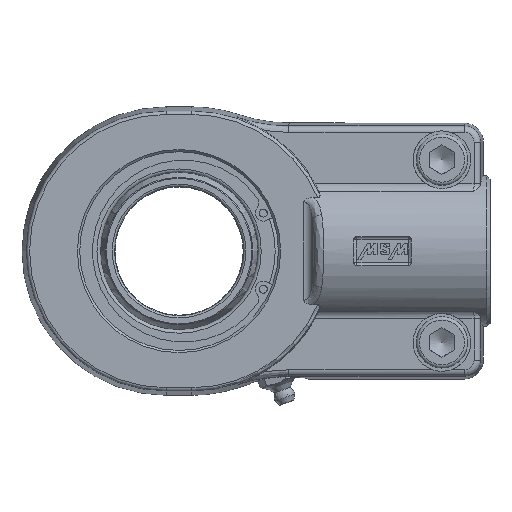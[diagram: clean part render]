
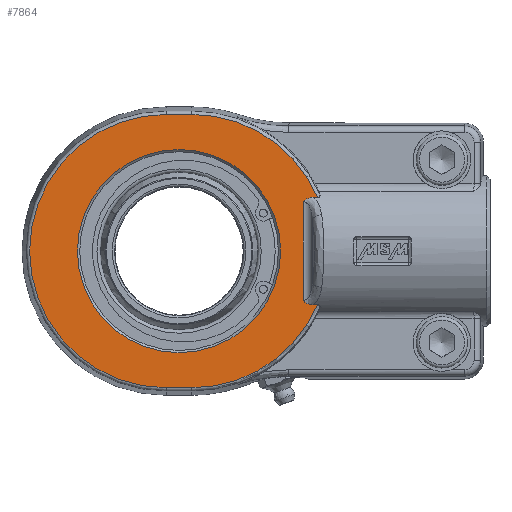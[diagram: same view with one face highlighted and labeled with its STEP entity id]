
A CAD part, left-side view. The second image highlights one B-rep face of the part: STEP entity #7864.
In plain terms, the highlighted planar face has unit normal (-1, 0, 0) as drawn and (0, 0, 1) by its records, which use the part's own axes.
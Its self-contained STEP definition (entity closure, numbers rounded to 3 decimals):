
#3815=CARTESIAN_POINT('',(16.733,-43.22,16.5));
#3816=VERTEX_POINT('',#3815);
#3832=CARTESIAN_POINT('',(16.733,-41.848,16.5));
#3833=VERTEX_POINT('',#3832);
#3834=CARTESIAN_POINT('',(16.733,-41.848,16.5));
#3835=DIRECTION('',(0.,-1.0,0.));
#3836=VECTOR('',#3835,1.371);
#3837=LINE('',#3834,#3836);
#3838=EDGE_CURVE('',#3833,#3816,#3837,.T.);
#3864=CARTESIAN_POINT('',(-16.733,-41.848,16.5));
#3865=VERTEX_POINT('',#3864);
#3879=CARTESIAN_POINT('',(-16.733,-43.22,16.5));
#3880=VERTEX_POINT('',#3879);
#3881=CARTESIAN_POINT('',(-16.733,-43.22,16.5));
#3882=DIRECTION('',(0.,1.0,0.));
#3883=VECTOR('',#3882,1.371);
#3884=LINE('',#3881,#3883);
#3885=EDGE_CURVE('',#3880,#3865,#3884,.T.);
#4269=CARTESIAN_POINT('',(0.0,31.7,16.5));
#4270=VERTEX_POINT('',#4269);
#4271=CARTESIAN_POINT('',(0.0,0.0,16.5));
#4272=DIRECTION('',(0.0,0.0,-1.0));
#4273=DIRECTION('',(0.0,1.0,0.0));
#4274=AXIS2_PLACEMENT_3D('',#4271,#4272,#4273);
#4275=CIRCLE('',#4274,31.7);
#4276=EDGE_CURVE('',#4270,#4270,#4275,.T.);
#7670=CARTESIAN_POINT('',(-42.64,-4.,16.5));
#7671=VERTEX_POINT('',#7670);
#7689=CARTESIAN_POINT('',(0.0,-4.,16.5));
#7690=DIRECTION('',(0.0,0.0,-1.0));
#7691=DIRECTION('',(-0.832,-0.555,0.0));
#7692=AXIS2_PLACEMENT_3D('',#7689,#7690,#7691);
#7693=CIRCLE('',#7692,42.64);
#7694=EDGE_CURVE('',#3880,#7671,#7693,.T.);
#7704=CARTESIAN_POINT('',(-42.64,4.,16.5));
#7705=VERTEX_POINT('',#7704);
#7720=CARTESIAN_POINT('',(-42.64,-4.,16.5));
#7721=DIRECTION('',(0.0,1.0,0.0));
#7722=VECTOR('',#7721,8.);
#7723=LINE('',#7720,#7722);
#7724=EDGE_CURVE('',#7671,#7705,#7723,.T.);
#7734=CARTESIAN_POINT('',(42.64,4.,16.5));
#7735=VERTEX_POINT('',#7734);
#7745=CARTESIAN_POINT('',(0.,4.,16.5));
#7746=DIRECTION('',(0.0,0.0,-1.0));
#7747=DIRECTION('',(0.0,1.0,0.0));
#7748=AXIS2_PLACEMENT_3D('',#7745,#7746,#7747);
#7749=CIRCLE('',#7748,42.64);
#7750=EDGE_CURVE('',#7705,#7735,#7749,.T.);
#7760=CARTESIAN_POINT('',(42.64,-4.,16.5));
#7761=VERTEX_POINT('',#7760);
#7778=CARTESIAN_POINT('',(42.64,4.,16.5));
#7779=DIRECTION('',(0.0,-1.0,0.0));
#7780=VECTOR('',#7779,8.);
#7781=LINE('',#7778,#7780);
#7782=EDGE_CURVE('',#7735,#7761,#7781,.T.);
#7801=CARTESIAN_POINT('',(0.0,-4.,16.5));
#7802=DIRECTION('',(0.0,0.0,-1.0));
#7803=DIRECTION('',(0.832,-0.555,0.0));
#7804=AXIS2_PLACEMENT_3D('',#7801,#7802,#7803);
#7805=CIRCLE('',#7804,42.64);
#7806=EDGE_CURVE('',#7761,#3816,#7805,.T.);
#7811=CARTESIAN_POINT('',(0.,0.0,16.5));
#7812=DIRECTION('',(0.0,0.0,1.0));
#7813=DIRECTION('',(1.0,0.0,0.0));
#7814=AXIS2_PLACEMENT_3D('',#7811,#7812,#7813);
#7815=PLANE('',#7814);
#7816=ORIENTED_EDGE('',*,*,#7806,.F.);
#7817=ORIENTED_EDGE('',*,*,#7782,.F.);
#7818=ORIENTED_EDGE('',*,*,#7750,.F.);
#7819=ORIENTED_EDGE('',*,*,#7724,.F.);
#7820=ORIENTED_EDGE('',*,*,#7694,.F.);
#7821=ORIENTED_EDGE('',*,*,#3885,.T.);
#7822=CARTESIAN_POINT('',(-15.427,-38.698,16.5));
#7823=VERTEX_POINT('',#7822);
#7824=CARTESIAN_POINT('',(-16.733,-41.848,16.5));
#7825=CARTESIAN_POINT('',(-16.733,-41.739,16.5));
#7826=CARTESIAN_POINT('',(-16.729,-41.629,16.5));
#7827=CARTESIAN_POINT('',(-16.682,-40.97,16.5));
#7828=CARTESIAN_POINT('',(-16.543,-40.433,16.5));
#7829=CARTESIAN_POINT('',(-16.134,-39.575,16.5));
#7830=CARTESIAN_POINT('',(-15.872,-39.145,16.5));
#7831=CARTESIAN_POINT('',(-15.432,-38.703,16.5));
#7832=CARTESIAN_POINT('',(-15.43,-38.701,16.5));
#7833=CARTESIAN_POINT('',(-15.427,-38.698,16.5));
#7834=B_SPLINE_CURVE_WITH_KNOTS('',3,(#7824,#7825,#7826,#7827,#7828,#7829,#7830,#7831,#7832,#7833),.UNSPECIFIED.,.F.,.U.,(4,2,2,2,4),(0.0,0.033,0.198,0.318,0.319),.UNSPECIFIED.);
#7835=EDGE_CURVE('',#7823,#3865,#7834,.F.);
#7836=ORIENTED_EDGE('',*,*,#7835,.F.);
#7837=CARTESIAN_POINT('',(15.427,-38.698,16.5));
#7838=VERTEX_POINT('',#7837);
#7839=CARTESIAN_POINT('',(15.427,-38.698,16.5));
#7840=DIRECTION('',(-1.0,0.0,0.0));
#7841=VECTOR('',#7840,30.854);
#7842=LINE('',#7839,#7841);
#7843=EDGE_CURVE('',#7838,#7823,#7842,.T.);
#7844=ORIENTED_EDGE('',*,*,#7843,.F.);
#7845=CARTESIAN_POINT('',(15.427,-38.698,16.5));
#7846=CARTESIAN_POINT('',(15.43,-38.701,16.5));
#7847=CARTESIAN_POINT('',(15.432,-38.703,16.5));
#7848=CARTESIAN_POINT('',(15.653,-38.925,16.5));
#7849=CARTESIAN_POINT('',(15.847,-39.161,16.5));
#7850=CARTESIAN_POINT('',(16.182,-39.672,16.5));
#7851=CARTESIAN_POINT('',(16.32,-39.941,16.5));
#7852=CARTESIAN_POINT('',(16.633,-40.741,16.5));
#7853=CARTESIAN_POINT('',(16.733,-41.292,16.5));
#7854=CARTESIAN_POINT('',(16.733,-41.848,16.5));
#7855=B_SPLINE_CURVE_WITH_KNOTS('',3,(#7845,#7846,#7847,#7848,#7849,#7850,#7851,#7852,#7853,#7854),.UNSPECIFIED.,.F.,.U.,(4,2,2,2,4),(-0.001,0.0,0.093,0.184,0.351),.UNSPECIFIED.);
#7856=EDGE_CURVE('',#3833,#7838,#7855,.F.);
#7857=ORIENTED_EDGE('',*,*,#7856,.F.);
#7858=ORIENTED_EDGE('',*,*,#3838,.T.);
#7859=EDGE_LOOP('',(#7816,#7817,#7818,#7819,#7820,#7821,#7836,#7844,#7857,#7858));
#7860=FACE_OUTER_BOUND('',#7859,.T.);
#7861=ORIENTED_EDGE('',*,*,#4276,.T.);
#7862=EDGE_LOOP('',(#7861));
#7863=FACE_BOUND('',#7862,.T.);
#7864=ADVANCED_FACE('',(#7860,#7863),#7815,.T.);
